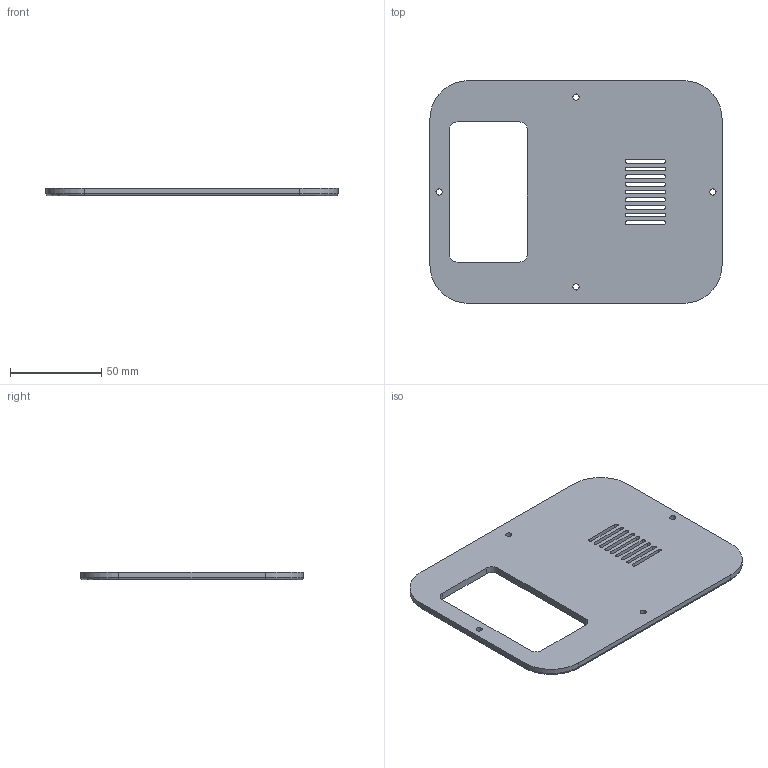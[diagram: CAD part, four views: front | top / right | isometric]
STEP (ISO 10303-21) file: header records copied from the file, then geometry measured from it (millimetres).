
FILE_DESCRIPTION(('Open CASCADE Model'),'2;1');
FILE_NAME('Open CASCADE Shape Model','2026-11-01T16:28:02',('Author'),( 'Open CASCADE'),'Open CASCADE STEP processor 8.0','build123d', 'Unknown');
FILE_SCHEMA(('AUTOMOTIVE_DESIGN { 1 0 10303 214 1 1 1 1 }'));
Length unit declared in the file: millimetre
Products named in the file (1): COMPOUND
Bounding box: 160 x 122 x 4 mm (x, y, z)
Volume: 60808.3 mm3; surface area: 35654.4 mm2
Topology: 1 solids, 1 shells, 87 faces, 228 edges, 148 vertices
Faces by surface type: cylinder 42, plane 37, torus 4, cone 4
Full cylindrical faces by diameter (mm): 3.4 x4, 14.4 x4
Entity records: 5828 total; most frequent: CARTESIAN_POINT 1324, DIRECTION 828, ORIENTED_EDGE 456, PCURVE 456, DEFINITIONAL_REPRESENTATION 456, LINE 448, VECTOR 448, EDGE_CURVE 228
